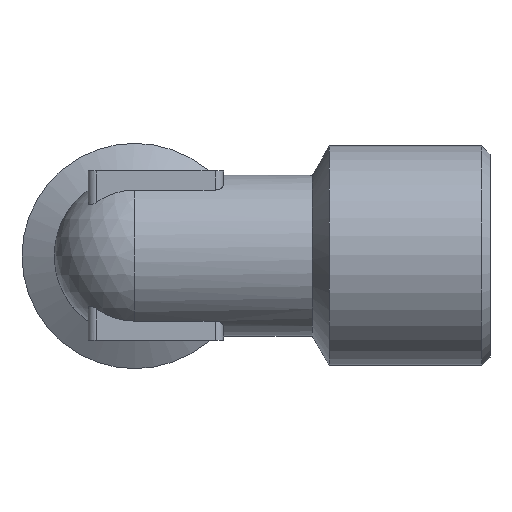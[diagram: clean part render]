
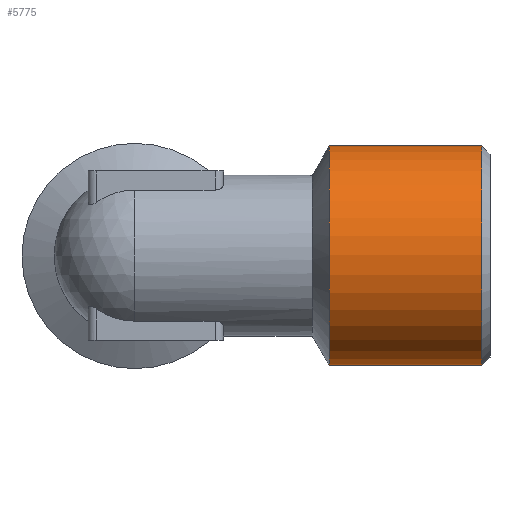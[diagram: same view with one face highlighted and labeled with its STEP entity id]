
A CAD part, top view. The second image highlights one B-rep face of the part: STEP entity #5775.
In plain terms, the highlighted cylindrical face has radius 6.5 mm (diameter 13 mm), a full revolution.
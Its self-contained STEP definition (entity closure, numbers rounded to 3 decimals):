
#1349=CYLINDRICAL_SURFACE('',#5659,6.5);
#1387=ORIENTED_EDGE('',*,*,#1754,.F.);
#1388=ORIENTED_EDGE('',*,*,#1755,.T.);
#1625=CIRCLE('',#5658,6.5);
#1626=CIRCLE('',#5660,6.5);
#1667=VERTEX_POINT('',#2270);
#1668=VERTEX_POINT('',#2273);
#1754=EDGE_CURVE('',#1667,#1667,#1625,.T.);
#1755=EDGE_CURVE('',#1668,#1668,#1626,.T.);
#1876=EDGE_LOOP('',(#1387));
#1877=EDGE_LOOP('',(#1388));
#1947=FACE_BOUND('',#1876,.T.);
#1948=FACE_BOUND('',#1877,.T.);
#2022=DIRECTION('',(1.,0.,0.));
#2023=DIRECTION('',(0.,0.,6.5));
#2024=DIRECTION('',(-1.,0.,0.));
#2025=DIRECTION('',(0.,1.,0.));
#2026=DIRECTION('',(1.,0.,0.));
#2027=DIRECTION('',(0.,0.,6.5));
#2270=CARTESIAN_POINT('',(30.162,30.563,6.5));
#2271=CARTESIAN_POINT('',(30.162,30.563,0.));
#2272=CARTESIAN_POINT('',(30.162,30.563,0.));
#2273=CARTESIAN_POINT('',(21.172,30.563,6.5));
#2274=CARTESIAN_POINT('',(21.172,30.563,0.));
#5658=AXIS2_PLACEMENT_3D('',#2271,#2022,#2023);
#5659=AXIS2_PLACEMENT_3D('',#2272,#2024,#2025);
#5660=AXIS2_PLACEMENT_3D('',#2274,#2026,#2027);
#5775=ADVANCED_FACE('',(#1947,#1948),#1349,.T.);
